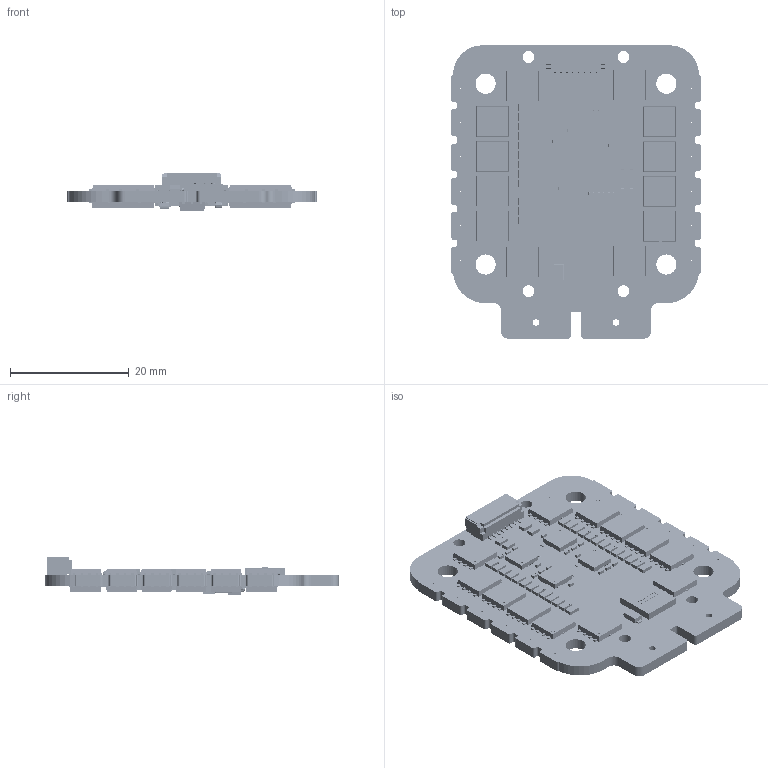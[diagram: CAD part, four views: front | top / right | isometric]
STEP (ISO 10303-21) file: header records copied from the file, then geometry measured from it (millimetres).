
FILE_DESCRIPTION(('Open CASCADE Model'),'2;1');
FILE_NAME('Open CASCADE Shape Model','2024-09-27T16:12:57',('Author'),( 'Open CASCADE'),'Open CASCADE STEP processor 7.5','Open CASCADE 7.5' ,'Unknown');
FILE_SCHEMA(('AUTOMOTIVE_DESIGN { 1 0 10303 214 1 1 1 1 }'));
Length unit declared in the file: millimetre
Products named in the file (296): PCB; Board; Open CASCADE STEP translator 7.5 1.1.1; R15; r0201v5; C6A; 0805SMD CAPACITOR; C6B; C6C; C6D; C7A; C7B; C7C; C7D; C8A; C8B; C8C; C8D; C9A; C9B; C9C; C9D; D1; PMDU; Body; pins; C5C; C1; C0201_020 (1); C2A; C2B; C2C; C2D; C3A; C3B; C3C; C3D; C4A; C4B; C4C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
Assembly tree (517 placements, depth 4):
  PCB
    Board
      Open CASCADE STEP translator 7.5 1.1.1
    R15
      r0201v5
    C6A
      0805SMD CAPACITOR
    C6B
      0805SMD CAPACITOR
    C6C
      0805SMD CAPACITOR
    C6D
      0805SMD CAPACITOR
    C7A
      0805SMD CAPACITOR
    C7B
      0805SMD CAPACITOR
    C7C
      0805SMD CAPACITOR
    C7D
      0805SMD CAPACITOR
    C8A
      0805SMD CAPACITOR
    C8B
      0805SMD CAPACITOR
    C8C
      0805SMD CAPACITOR
    C8D
      0805SMD CAPACITOR
    C9A
      0805SMD CAPACITOR
    C9B
      0805SMD CAPACITOR
    C9C
      0805SMD CAPACITOR
    C9D
      0805SMD CAPACITOR
    D1
      PMDU
        Body
        pins
    C5C
      0805SMD CAPACITOR
    C1
      C0201_020 (1)
      C0201_020 (1)
      C0201_020 (1)
    C2A
      0805SMD CAPACITOR
    C2B
      0805SMD CAPACITOR
    C2C
      0805SMD CAPACITOR
    C2D
      0805SMD CAPACITOR
    C3A
      0805SMD CAPACITOR
    C3B
      0805SMD CAPACITOR
    C3C
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Bounding box: 42.03 x 49.51 x 6.29 mm (x, y, z)
Volume: 4503.7 mm3; surface area: 9248.4 mm2
Topology: 1304 solids, 1304 shells, 42068 faces, 112670 edges, 74140 vertices
Faces by surface type: plane 23196, bspline 16445, cylinder 1855, sphere 572
Full cylindrical faces by diameter (mm): 0.2 x12, 0.3 x48, 0.4 x48, 0.5 x4, 0.6 x24, 1.1 x2, 2 x4, 3.4 x3
Entity records: 107878 total; most frequent: CARTESIAN_POINT 28666, ORIENTED_EDGE 15150, DIRECTION 11787, EDGE_CURVE 7575, LINE 5051, VECTOR 5051, VERTEX_POINT 4990, AXIS2_PLACEMENT_3D 3368
